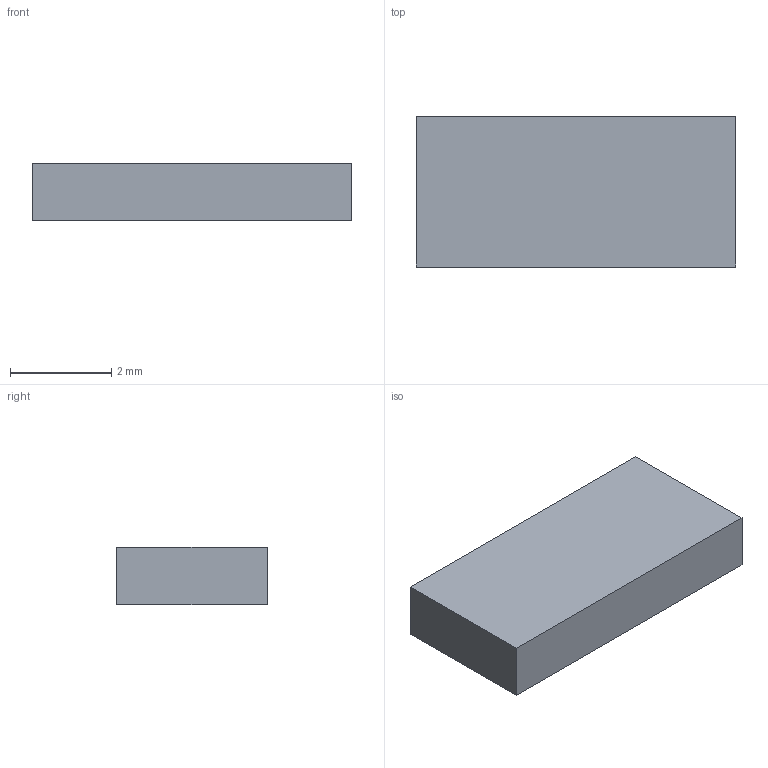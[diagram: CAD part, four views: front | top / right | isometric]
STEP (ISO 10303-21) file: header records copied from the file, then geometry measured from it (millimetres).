
FILE_DESCRIPTION(('Open CASCADE Model'),'2;1');
FILE_NAME('Open CASCADE Shape Model','2026-10-07T08:13:16',('Author'),( 'Open CASCADE'),'Open CASCADE STEP processor 7.9','Open CASCADE 7.9' ,'Unknown');
FILE_SCHEMA(('AUTOMOTIVE_DESIGN { 1 0 10303 214 1 1 1 1 }'));
Length unit declared in the file: millimetre
Products named in the file (1): Open CASCADE STEP translator 7.9 4
Bounding box: 6.32 x 2.97 x 1.14 mm (x, y, z)
Volume: 21.4 mm3; surface area: 58.7 mm2
Topology: 1 solids, 1 shells, 6 faces, 12 edges, 8 vertices
Faces by surface type: plane 6
Entity records: 322 total; most frequent: CARTESIAN_POINT 51, DIRECTION 50, LINE 36, VECTOR 36, ORIENTED_EDGE 24, PCURVE 24, DEFINITIONAL_REPRESENTATION 24, EDGE_CURVE 12
